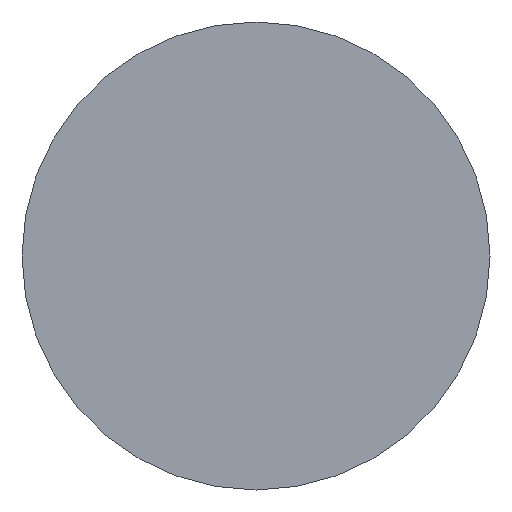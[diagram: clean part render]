
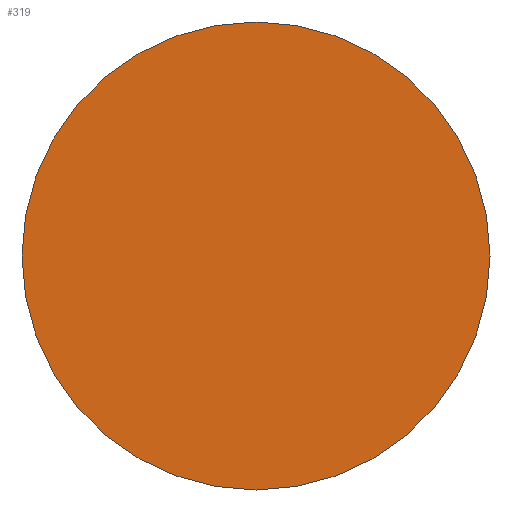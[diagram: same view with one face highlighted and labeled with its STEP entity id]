
A CAD part, left-side view. The second image highlights one B-rep face of the part: STEP entity #319.
In plain terms, the highlighted planar face has unit normal (-1, 0, 0).
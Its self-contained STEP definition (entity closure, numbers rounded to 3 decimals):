
#16=PLANE('',#370);
#52=FACE_OUTER_BOUND('',#68,.T.);
#68=EDGE_LOOP('',(#239,#240));
#94=CIRCLE('',#371,9.035);
#95=CIRCLE('',#372,9.035);
#133=VERTEX_POINT('',#570);
#134=VERTEX_POINT('',#571);
#174=EDGE_CURVE('',#133,#134,#94,.T.);
#175=EDGE_CURVE('',#134,#133,#95,.T.);
#239=ORIENTED_EDGE('',*,*,#174,.F.);
#240=ORIENTED_EDGE('',*,*,#175,.F.);
#319=ADVANCED_FACE('',(#52),#16,.T.);
#370=AXIS2_PLACEMENT_3D('',#569,#451,#452);
#371=AXIS2_PLACEMENT_3D('',#572,#453,#454);
#372=AXIS2_PLACEMENT_3D('',#573,#455,#456);
#451=DIRECTION('center_axis',(-1.,0.,0.));
#452=DIRECTION('ref_axis',(0.,0.,1.));
#453=DIRECTION('center_axis',(1.,0.,0.));
#454=DIRECTION('ref_axis',(0.,0.,-1.));
#455=DIRECTION('center_axis',(1.,0.,0.));
#456=DIRECTION('ref_axis',(0.,0.,-1.));
#569=CARTESIAN_POINT('Origin',(0.,9.035,0.));
#570=CARTESIAN_POINT('',(0.,9.035,0.));
#571=CARTESIAN_POINT('',(0.,-9.035,0.));
#572=CARTESIAN_POINT('Origin',(0.,0.,0.));
#573=CARTESIAN_POINT('Origin',(0.,0.,0.));
